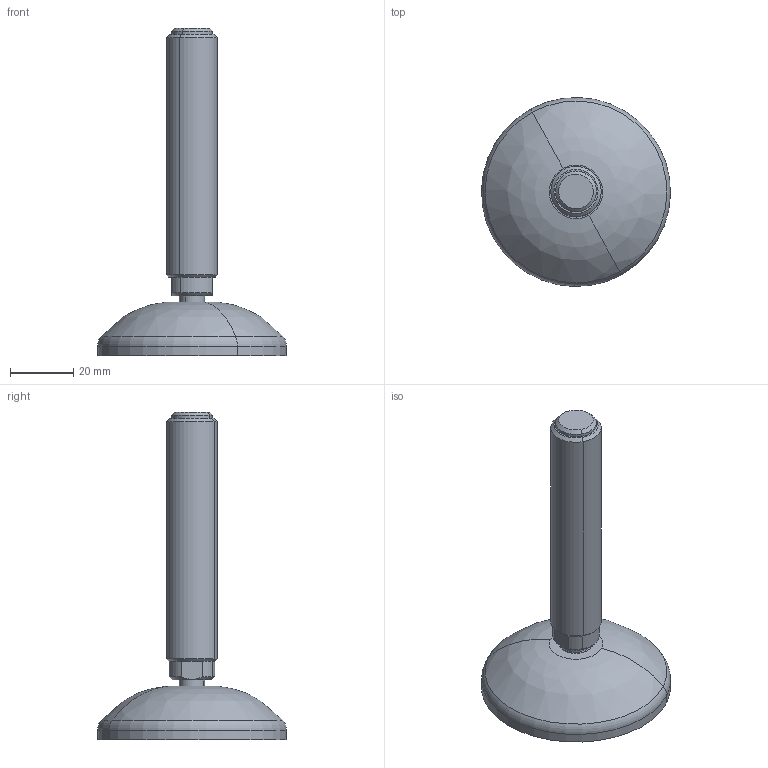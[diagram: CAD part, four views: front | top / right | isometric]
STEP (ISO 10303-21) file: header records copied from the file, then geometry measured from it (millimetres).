
FILE_DESCRIPTION(('CATIA V5 STEP Exchange'),'2;1');
FILE_NAME('X:\CODICI MOVEX\3D per clienti\Nico\02-10-2012\P90801.stp','2012-10-02T14:27:08+00:00',('none'),('none'),'CATIA Version 5 Release 21 SP 1 (IN-10)','CATIA V5 STEP AP203','none');
FILE_SCHEMA(('CONFIG_CONTROL_DESIGN'));
Length unit declared in the file: millimetre
Products named in the file (1): Product1
Assembly tree (2 placements, depth 2):
  Product1
    #58
    #19430
Bounding box: 59.98 x 59.98 x 104 mm (x, y, z)
Volume: 34996 mm3; surface area: 19812.7 mm2
Topology: 2 solids, 4 shells, 560 faces, 1594 edges, 1045 vertices
Faces by surface type: plane 465, torus 30, cylinder 22, revolution 19, sphere 16, cone 8
Entity records: 20070 total; most frequent: CARTESIAN_POINT 7718, ORIENTED_EDGE 3176, EDGE_CURVE 1588, DIRECTION 1579, VERTEX_POINT 1045, B_SPLINE_CURVE_WITH_KNOTS 957, AXIS2_PLACEMENT_3D 613, EDGE_LOOP 571
